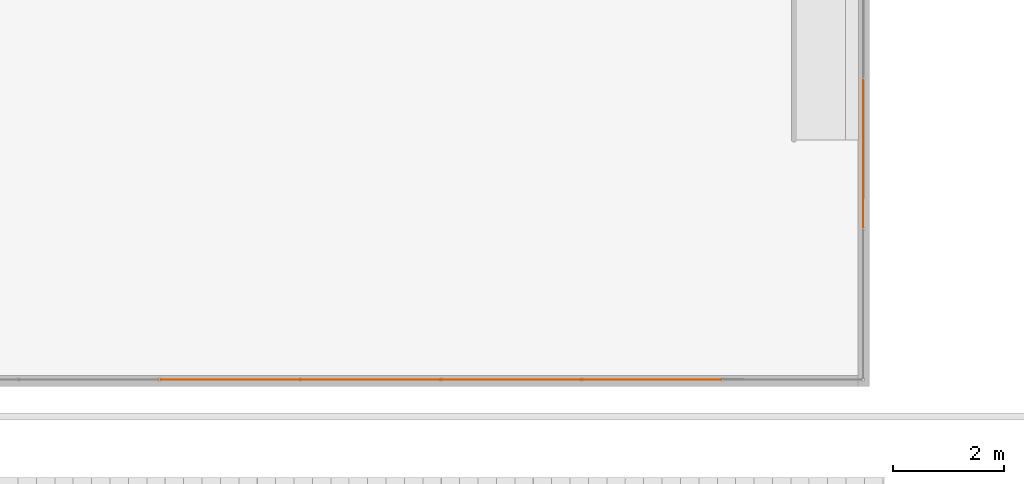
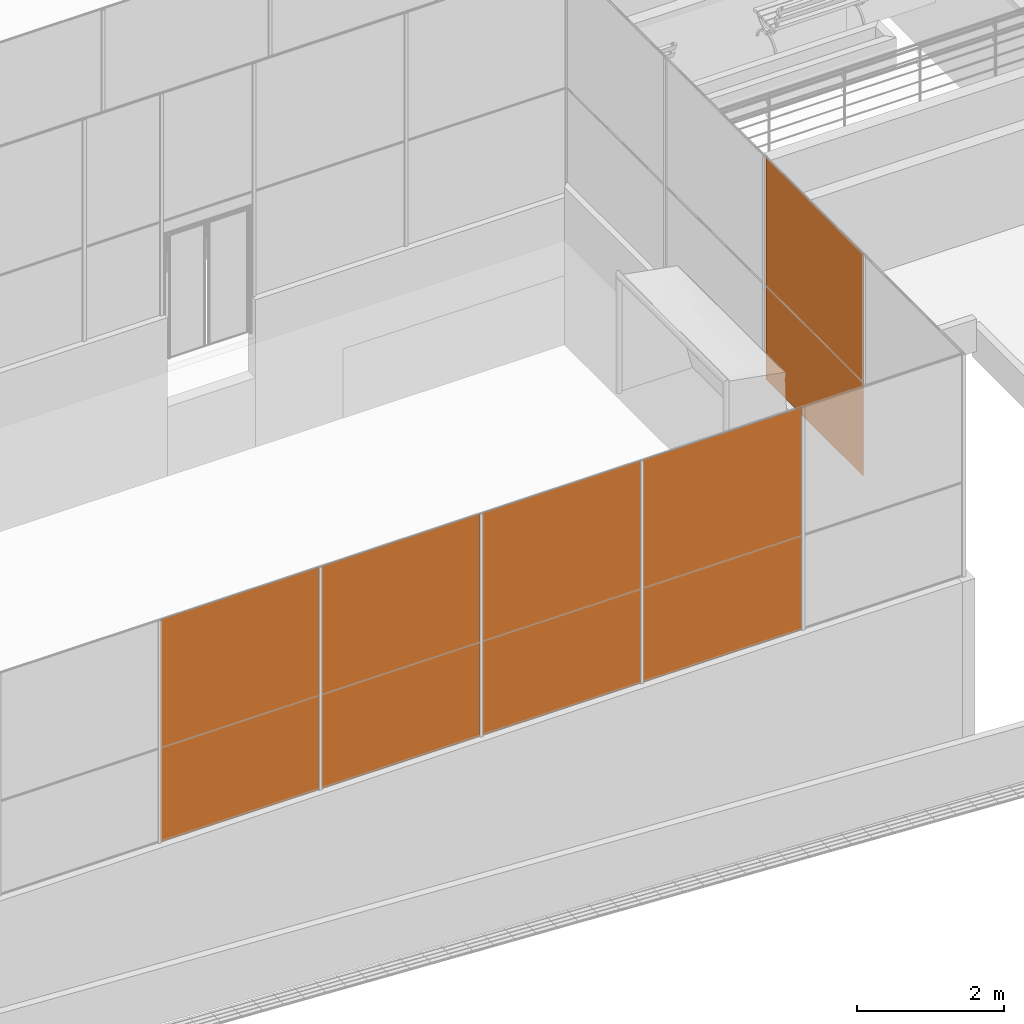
# One storey, part 153 of 237: 5 proxies.
"""IFC2X3 building model written with IfcOpenShell, lengths in millimetres."""

from ifc_helpers import new_model, entity, si_unit, converted_unit, derived_unit, money_unit, direction, frame, origin_with_axes, place, context, subcontext, project, spatial, open_shell, surface_model, source, transform, mapped, type_object, element, save


model = new_model("IFC2X3")

# Units and contexts
model_context = context("Model", 3, precision=0.01, world=origin_with_axes(), true_north=direction((0.0, 1.0)))
body_context = subcontext(model_context, "Body", "Model", "MODEL_VIEW")
ifc_project = project(units=[si_unit("LENGTHUNIT", "METRE", prefix="MILLI"), si_unit("AREAUNIT", "SQUARE_METRE"), si_unit("VOLUMEUNIT", "CUBIC_METRE"), converted_unit("PLANEANGLEUNIT", "DEGREE", entity("IfcPlaneAngleMeasure", 0.0174532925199), si_unit("PLANEANGLEUNIT", "RADIAN"), dimensions=[0, 0, 0, 0, 0, 0, 0]), money_unit("USD"), converted_unit("TIMEUNIT", "Year", entity("IfcTimeMeasure", 31556926.0), si_unit("TIMEUNIT", "SECOND"), dimensions=[0, 0, 1, 0, 0, 0, 0]), si_unit("MASSUNIT", "GRAM", prefix="KILO"), si_unit("THERMODYNAMICTEMPERATUREUNIT", "DEGREE_CELSIUS"), si_unit("LUMINOUSINTENSITYUNIT", "LUMEN"), si_unit("ENERGYUNIT", "JOULE", prefix="MEGA"), derived_unit("THERMALCONDUCTANCEUNIT", [(si_unit("POWERUNIT", "WATT"), 1), (si_unit("LENGTHUNIT", "METRE"), -1), (si_unit("THERMODYNAMICTEMPERATUREUNIT", "KELVIN"), -1)]), derived_unit("SPECIFICHEATCAPACITYUNIT", [(si_unit("ENERGYUNIT", "JOULE"), 1), (si_unit("MASSUNIT", "GRAM", prefix="KILO"), -1), (si_unit("THERMODYNAMICTEMPERATUREUNIT", "KELVIN"), -1)]), derived_unit("MASSDENSITYUNIT", [(si_unit("MASSUNIT", "GRAM", prefix="KILO"), 1), (si_unit("VOLUMEUNIT", "CUBIC_METRE"), -1)])], contexts=[model_context])

# Site, building, storey
site_placement = place(None, origin_with_axes())
site = spatial("IfcSite", under=ifc_project, at=site_placement, Name="Local", CompositionType="ELEMENT")
building_placement = place(site_placement, origin_with_axes())
building = spatial("IfcBuilding", under=site, at=building_placement, Name="Construção", CompositionType="ELEMENT")
storey_placement = place(building_placement, origin_with_axes())
storey = spatial("IfcBuildingStorey", under=building, at=storey_placement, Name="Pavimento Térreo", CompositionType="ELEMENT", Elevation=0.0)

# Proxies
building_element_proxy_type = type_object("IfcBuildingElementProxyType", Name="Tela metalica1", PredefinedType="NOTDEFINED")
shared_shape_1 = source(origin_with_axes(), body_context, "Body", "SurfaceModel", [
    surface_model("IfcShellBasedSurfaceModel", [(2425.90485323, 0.0, 3702.79626524), (0.0, 556.074761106, 3702.79626524), (0.0, 556.074761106, 0.0), (2425.90485323, 0.0, 0.0)], [open_shell([[[0, 1, 2, 3]]])]),
])
for number, where, z_axis, x_axis, name in (
    (1, (73744.4737721, 12204.8672655, -2726.37402835), (0.0, 0.0, 1.0), (0.974874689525, 0.222753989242, 0.0), "Objeto-0044"),
    (2, (66161.229064, 12204.8672655, -2726.37402835), (0.0, 0.0, 1.0), (0.974874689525, 0.222753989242, 0.0), "Objeto-0044"),
    (3, (68688.9773, 12204.8672655, -2726.37402835), (0.0, 0.0, 1.0), (0.974874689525, 0.222753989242, 0.0), "Objeto-0044"),
    (4, (71216.7255361, 12204.8672655, -2726.37402835), (0.0, 0.0, 1.0), (0.974874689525, 0.222753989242, 0.0), "Objeto-0044"),
):
    element("IfcBuildingElementProxy", number, at=place(storey_placement, frame(where, z_axis=z_axis, x_axis=x_axis)), inside=storey, type_object=building_element_proxy_type, Name=name, context=body_context, shape_type="MappedRepresentation", body=[
        mapped(shared_shape_1, transform((0.0, 0.0, 0.0))),
    ])
shared_shape_2 = source(origin_with_axes(), body_context, "Body", "SurfaceModel", [
    surface_model("IfcShellBasedSurfaceModel", [(2584.7166083, 0.0, 3698.31684606), (0.0, 592.777300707, 3698.31684606), (0.0, 592.777300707, 0.0), (2584.7166083, 0.0, 0.0)], [open_shell([[[0, 1, 2, 3]]])]),
])
proxy_placement = place(storey_placement, frame((79241.3419043, 15610.2137481, -2721.89460916), z_axis=(0.0, 0.0, 1.0), x_axis=(-0.223510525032, 0.974701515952, 0.0)))
element("IfcBuildingElementProxy", 5, at=proxy_placement, inside=storey, type_object=building_element_proxy_type, Name="Objeto-0044", context=body_context, shape_type="MappedRepresentation", body=[
    mapped(shared_shape_2, transform((0.0, 0.0, 0.0))),
])

save(model, "model.ifc")
